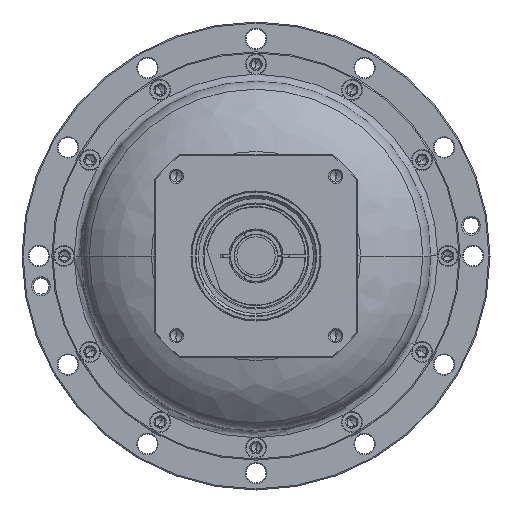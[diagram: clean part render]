
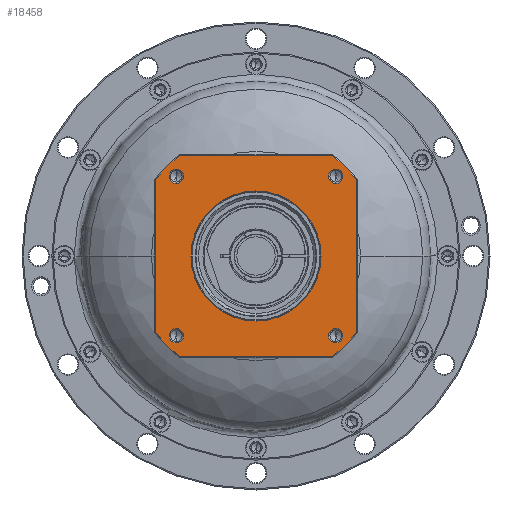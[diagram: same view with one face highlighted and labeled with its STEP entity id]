
A CAD part, left-side view. The second image highlights one B-rep face of the part: STEP entity #18458.
In plain terms, the highlighted planar face has unit normal (-1, 0, 0) as drawn and (0, 0, 1) by its records, which use the part's own axes.
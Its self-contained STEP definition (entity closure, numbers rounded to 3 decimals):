
#17189=DIRECTION('',(1.,0.,0.));
#17190=VECTOR('',#17189,134.666);
#17191=CARTESIAN_POINT('',(-67.333,-89.5,56.));
#17192=LINE('',#17191,#17190);
#17202=CARTESIAN_POINT('',(0.,0.,
56.));
#17203=DIRECTION('',(0.,0.,-1.));
#17204=DIRECTION('',(0.,-1.,0.));
#17205=AXIS2_PLACEMENT_3D('',#17202,#17203,#17204);
#17207=CARTESIAN_POINT('',(0.,0.,
56.));
#17208=DIRECTION('',(0.,0.,-1.));
#17209=DIRECTION('',(0.,1.,0.));
#17210=AXIS2_PLACEMENT_3D('',#17207,#17208,#17209);
#17212=CARTESIAN_POINT('',(0.,0.,56.));
#17213=DIRECTION('',(0.,0.,1.));
#17214=DIRECTION('',(-0.799,-0.601,0.));
#17215=AXIS2_PLACEMENT_3D('',#17212,#17213,#17214);
#17227=DIRECTION('',(0.,-1.,0.));
#17228=VECTOR('',#17227,134.666);
#17229=CARTESIAN_POINT('',(-89.5,67.333,56.));
#17230=LINE('',#17229,#17228);
#17240=CARTESIAN_POINT('',(0.,0.,56.));
#17241=DIRECTION('',(0.,0.,1.));
#17242=DIRECTION('',(-0.601,0.799,0.));
#17243=AXIS2_PLACEMENT_3D('',#17240,#17241,#17242);
#17268=DIRECTION('',(-1.,0.,0.));
#17269=VECTOR('',#17268,134.666);
#17270=CARTESIAN_POINT('',(67.333,89.5,56.));
#17271=LINE('',#17270,#17269);
#17276=CARTESIAN_POINT('',(0.,0.,56.));
#17277=DIRECTION('',(0.,0.,1.));
#17278=DIRECTION('',(0.799,0.601,0.));
#17279=AXIS2_PLACEMENT_3D('',#17276,#17277,#17278);
#17291=DIRECTION('',(0.,1.,0.));
#17292=VECTOR('',#17291,134.666);
#17293=CARTESIAN_POINT('',(89.5,-67.333,56.));
#17294=LINE('',#17293,#17292);
#17396=CARTESIAN_POINT('',(0.,0.,56.));
#17397=DIRECTION('',(0.,0.,1.));
#17398=DIRECTION('',(0.601,-0.799,0.));
#17399=AXIS2_PLACEMENT_3D('',#17396,#17397,#17398);
#17675=CARTESIAN_POINT('',(-70.711,70.711,56.));
#17676=DIRECTION('',(0.,0.,1.));
#17677=DIRECTION('',(-1.,0.,0.));
#17678=AXIS2_PLACEMENT_3D('',#17675,#17676,#17677);
#17693=CARTESIAN_POINT('',(-70.711,70.711,56.));
#17694=DIRECTION('',(0.,0.,1.));
#17695=DIRECTION('',(1.,0.,0.));
#17696=AXIS2_PLACEMENT_3D('',#17693,#17694,#17695);
#17729=CARTESIAN_POINT('',(70.711,70.711,56.));
#17730=DIRECTION('',(0.,0.,1.));
#17731=DIRECTION('',(-1.,0.,0.));
#17732=AXIS2_PLACEMENT_3D('',#17729,#17730,#17731);
#17747=CARTESIAN_POINT('',(70.711,70.711,56.));
#17748=DIRECTION('',(0.,0.,1.));
#17749=DIRECTION('',(1.,0.,0.));
#17750=AXIS2_PLACEMENT_3D('',#17747,#17748,#17749);
#17783=CARTESIAN_POINT('',(70.711,-70.711,56.));
#17784=DIRECTION('',(0.,0.,1.));
#17785=DIRECTION('',(-1.,0.,0.));
#17786=AXIS2_PLACEMENT_3D('',#17783,#17784,#17785);
#17801=CARTESIAN_POINT('',(70.711,-70.711,56.));
#17802=DIRECTION('',(0.,0.,1.));
#17803=DIRECTION('',(1.,0.,0.));
#17804=AXIS2_PLACEMENT_3D('',#17801,#17802,#17803);
#17837=CARTESIAN_POINT('',(-70.711,-70.711,56.));
#17838=DIRECTION('',(0.,0.,1.));
#17839=DIRECTION('',(-1.,0.,0.));
#17840=AXIS2_PLACEMENT_3D('',#17837,#17838,#17839);
#17855=CARTESIAN_POINT('',(-70.711,-70.711,56.));
#17856=DIRECTION('',(0.,0.,1.));
#17857=DIRECTION('',(1.,0.,0.));
#17858=AXIS2_PLACEMENT_3D('',#17855,#17856,#17857);
#17899=CARTESIAN_POINT('',(89.5,-67.333,56.));
#17900=CARTESIAN_POINT('',(89.5,67.333,56.));
#17901=VERTEX_POINT('',#17899);
#17902=VERTEX_POINT('',#17900);
#17907=CARTESIAN_POINT('',(67.333,-89.5,56.));
#17908=VERTEX_POINT('',#17907);
#17911=CARTESIAN_POINT('',(-67.333,-89.5,56.));
#17912=VERTEX_POINT('',#17911);
#17915=CARTESIAN_POINT('',(-89.5,-67.333,56.));
#17916=VERTEX_POINT('',#17915);
#17919=CARTESIAN_POINT('',(-89.5,67.333,56.));
#17920=VERTEX_POINT('',#17919);
#17923=CARTESIAN_POINT('',(-67.333,89.5,56.));
#17924=VERTEX_POINT('',#17923);
#17927=CARTESIAN_POINT('',(67.333,89.5,56.));
#17928=VERTEX_POINT('',#17927);
#17977=CARTESIAN_POINT('',(-77.111,70.711,56.));
#17978=CARTESIAN_POINT('',(-64.311,70.711,56.));
#17979=VERTEX_POINT('',#17977);
#17980=VERTEX_POINT('',#17978);
#18011=CARTESIAN_POINT('',(77.111,70.711,56.));
#18012=CARTESIAN_POINT('',(64.311,70.711,56.));
#18013=VERTEX_POINT('',#18011);
#18014=VERTEX_POINT('',#18012);
#18019=CARTESIAN_POINT('',(77.111,-70.711,56.));
#18020=CARTESIAN_POINT('',(64.311,-70.711,56.));
#18021=VERTEX_POINT('',#18019);
#18022=VERTEX_POINT('',#18020);
#18027=CARTESIAN_POINT('',(-64.311,-70.711,56.));
#18028=CARTESIAN_POINT('',(-77.111,-70.711,56.));
#18029=VERTEX_POINT('',#18027);
#18030=VERTEX_POINT('',#18028);
#18035=CARTESIAN_POINT('',(0.,-57.65,56.));
#18036=CARTESIAN_POINT('',(0.,57.65,56.));
#18037=VERTEX_POINT('',#18035);
#18038=VERTEX_POINT('',#18036);
#18406=CARTESIAN_POINT('',(0.,0.,56.));
#18407=DIRECTION('',(0.,0.,1.));
#18408=DIRECTION('',(1.,0.,0.));
#18409=AXIS2_PLACEMENT_3D('',#18406,#18407,#18408);
#18410=PLANE('',#18409);
#18412=ORIENTED_EDGE('',*,*,#18411,.F.);
#18414=ORIENTED_EDGE('',*,*,#18413,.F.);
#18416=ORIENTED_EDGE('',*,*,#18415,.F.);
#18418=ORIENTED_EDGE('',*,*,#18417,.F.);
#18420=ORIENTED_EDGE('',*,*,#18419,.F.);
#18422=ORIENTED_EDGE('',*,*,#18421,.F.);
#18424=ORIENTED_EDGE('',*,*,#18423,.F.);
#18425=ORIENTED_EDGE('',*,*,#18396,.F.);
#18426=EDGE_LOOP('',(#18412,#18414,#18416,#18418,#18420,#18422,#18424,#18425));
#18427=FACE_OUTER_BOUND('',#18426,.F.);
#18429=ORIENTED_EDGE('',*,*,#18428,.F.);
#18431=ORIENTED_EDGE('',*,*,#18430,.F.);
#18432=EDGE_LOOP('',(#18429,#18431));
#18433=FACE_BOUND('',#18432,.F.);
#18435=ORIENTED_EDGE('',*,*,#18434,.T.);
#18437=ORIENTED_EDGE('',*,*,#18436,.T.);
#18438=EDGE_LOOP('',(#18435,#18437));
#18439=FACE_BOUND('',#18438,.F.);
#18441=ORIENTED_EDGE('',*,*,#18440,.T.);
#18443=ORIENTED_EDGE('',*,*,#18442,.T.);
#18444=EDGE_LOOP('',(#18441,#18443));
#18445=FACE_BOUND('',#18444,.F.);
#18447=ORIENTED_EDGE('',*,*,#18446,.T.);
#18449=ORIENTED_EDGE('',*,*,#18448,.T.);
#18450=EDGE_LOOP('',(#18447,#18449));
#18451=FACE_BOUND('',#18450,.F.);
#18453=ORIENTED_EDGE('',*,*,#18452,.T.);
#18455=ORIENTED_EDGE('',*,*,#18454,.T.);
#18456=EDGE_LOOP('',(#18453,#18455));
#18457=FACE_BOUND('',#18456,.F.);
#18458=ADVANCED_FACE('',(#18427,#18433,#18439,#18445,#18451,#18457),#18410,.T.);
#17206=CIRCLE('',#17205,57.65);
#17211=CIRCLE('',#17210,57.65);
#17216=CIRCLE('',#17215,112.);
#17244=CIRCLE('',#17243,112.);
#17280=CIRCLE('',#17279,112.);
#17400=CIRCLE('',#17399,112.);
#17679=CIRCLE('',#17678,6.4);
#17697=CIRCLE('',#17696,6.4);
#17733=CIRCLE('',#17732,6.4);
#17751=CIRCLE('',#17750,6.4);
#17787=CIRCLE('',#17786,6.4);
#17805=CIRCLE('',#17804,6.4);
#17841=CIRCLE('',#17840,6.4);
#17859=CIRCLE('',#17858,6.4);
#18396=EDGE_CURVE('',#17912,#17908,#17192,.T.);
#18411=EDGE_CURVE('',#17916,#17912,#17216,.T.);
#18413=EDGE_CURVE('',#17920,#17916,#17230,.T.);
#18415=EDGE_CURVE('',#17924,#17920,#17244,.T.);
#18417=EDGE_CURVE('',#17928,#17924,#17271,.T.);
#18419=EDGE_CURVE('',#17902,#17928,#17280,.T.);
#18421=EDGE_CURVE('',#17901,#17902,#17294,.T.);
#18423=EDGE_CURVE('',#17908,#17901,#17400,.T.);
#18428=EDGE_CURVE('',#18037,#18038,#17206,.T.);
#18430=EDGE_CURVE('',#18038,#18037,#17211,.T.);
#18434=EDGE_CURVE('',#17979,#17980,#17679,.T.);
#18436=EDGE_CURVE('',#17980,#17979,#17697,.T.);
#18440=EDGE_CURVE('',#18014,#18013,#17733,.T.);
#18442=EDGE_CURVE('',#18013,#18014,#17751,.T.);
#18446=EDGE_CURVE('',#18022,#18021,#17787,.T.);
#18448=EDGE_CURVE('',#18021,#18022,#17805,.T.);
#18452=EDGE_CURVE('',#18030,#18029,#17841,.T.);
#18454=EDGE_CURVE('',#18029,#18030,#17859,.T.);
